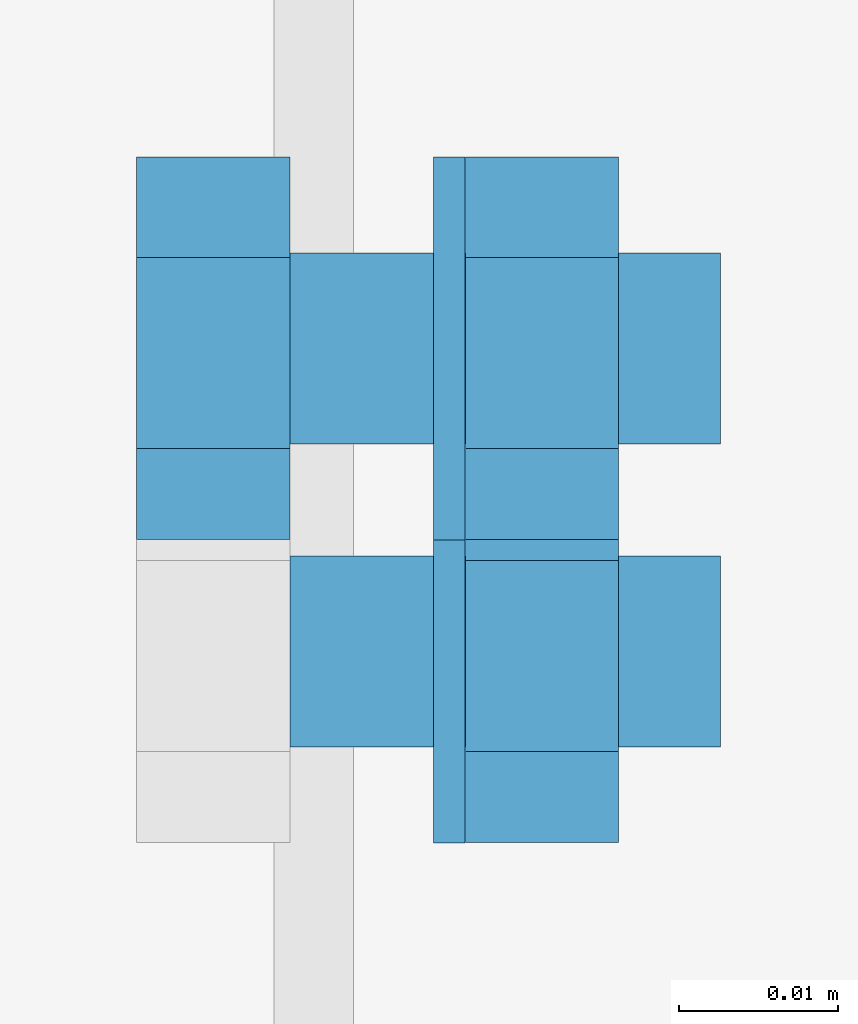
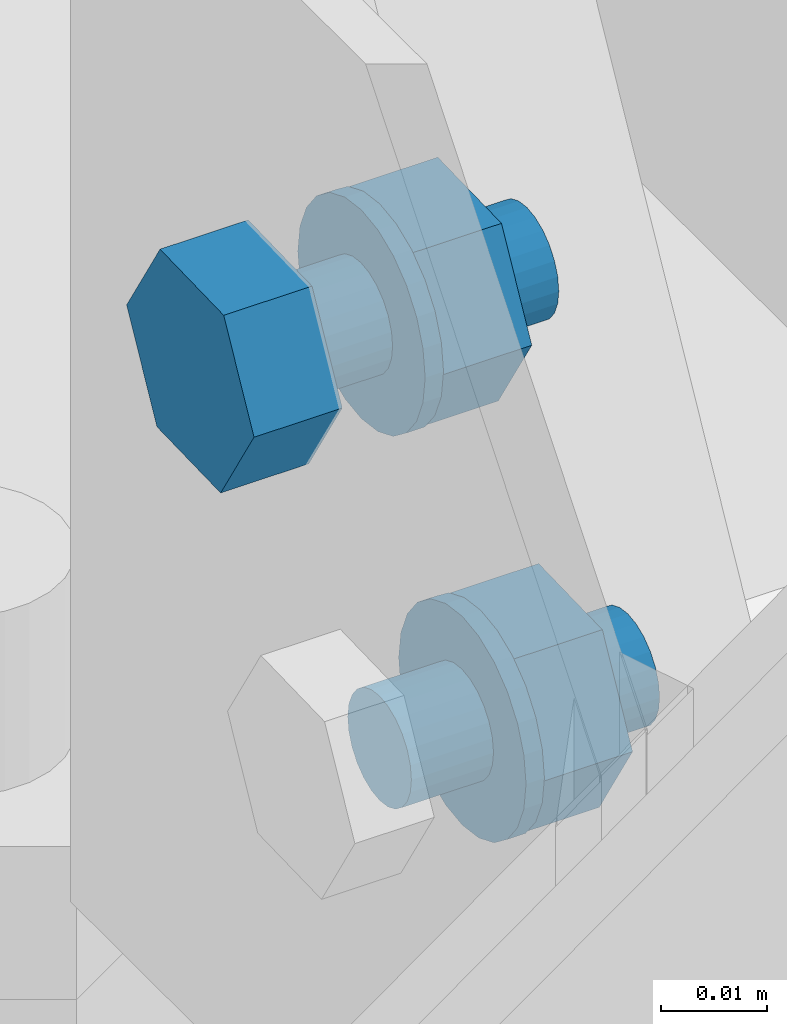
# One storey, part 26 of 29: 7 mechanical fasteners.
"""IFC4 building model written with IfcOpenShell, lengths in metres."""

from ifc_helpers import new_model, si_unit, frame, origin_with_axes, place, context, project, spatial, polyline, outline, extrude, type_object, element, save


model = new_model("IFC4")

# Units and contexts
model_context = context("Model", 3, precision=1e-05, world=origin_with_axes())
ifc_project = project(units=[si_unit("LENGTHUNIT", "METRE"), si_unit("AREAUNIT", "SQUARE_METRE"), si_unit("VOLUMEUNIT", "CUBIC_METRE"), si_unit("MASSUNIT", "GRAM", prefix="KILO"), si_unit("TIMEUNIT", "SECOND"), si_unit("PLANEANGLEUNIT", "RADIAN"), si_unit("SOLIDANGLEUNIT", "STERADIAN"), si_unit("THERMODYNAMICTEMPERATUREUNIT", "DEGREE_CELSIUS")], contexts=[model_context])

# Site, building, storey
placement_1 = place(None, origin_with_axes())
site = spatial("IfcSite", under=ifc_project, at=placement_1, Name="Italia", CompositionType="ELEMENT")
building = spatial("IfcBuilding", under=site, at=placement_1, Name="Capannone", CompositionType="ELEMENT")
storey = spatial("IfcBuildingStorey", under=building, at=placement_1, Name="Storey 0", CompositionType="ELEMENT", Elevation=0.0)

# Mechanical fasteners
mechanical_fastener_type_1 = type_object("IfcMechanicalFastenerType", Name="Collegamento 0010_0112", PredefinedType="BOLT")
placement_2 = place(placement_1, origin_with_axes())
mechanical_fastener_1_placement = place(placement_2, origin_with_axes())
element("IfcMechanicalFastener", 1, at=mechanical_fastener_1_placement, inside=storey, type_object=mechanical_fastener_type_1, Name="Collegamento 0010_0112", NominalDiameter=0.012, context=model_context, shape_type="SweptSolid", body=[
    extrude(outline(polyline([(0.0, 0.0), (-0.000204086, -0.00155292), (-0.000802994, -0.003), (-0.00175667, -0.00424264), (-0.00299931, -0.00519615), (-0.00444698, -0.00579555), (-0.00599957, -0.006), (-0.00755215, -0.00579555), (-0.00899982, -0.00519615), (-0.0102425, -0.00424264), (-0.0111961, -0.003), (-0.011795, -0.00155292), (-0.0119991, 0.0), (-0.011795, 0.00155291), (-0.0111961, 0.00300001), (-0.0102425, 0.00424264), (-0.00899982, 0.00519615), (-0.00755215, 0.00579555), (-0.00599957, 0.006), (-0.00444698, 0.00579555), (-0.00299931, 0.00519615), (-0.00175667, 0.00424264), (-0.000802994, 0.00300001), (-0.000204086, 0.00155291), (0.0, 0.0)])), frame((14.019, 12.041, 0.126354), z_axis=(-1.0, 0.0, 0.0), x_axis=(0.0, -1.0, 0.0)), (0.0, 0.0, 1.0), 0.0269995),
])
mechanical_fastener_type_2 = type_object("IfcMechanicalFastenerType", Name="Collegamento 0010_0112", PredefinedType="BOLT")
mechanical_fastener_2_placement = place(placement_2, origin_with_axes())
element("IfcMechanicalFastener", 2, at=mechanical_fastener_2_placement, inside=storey, type_object=mechanical_fastener_type_2, Name="Collegamento 0010_0112", NominalDiameter=0.0119997, context=model_context, shape_type="SweptSolid", body=[
    extrude(outline(polyline([(0.0, 0.0), (0.00570583, -0.0105565), (0.0177011, -0.010893), (0.0239906, -0.000673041), (0.0182838, 0.00988343), (0.00628853, 0.01022), (0.0, 0.0)])), frame((14.0126, 12.059, 0.126691), z_axis=(-1.0, 0.0, 0.0), x_axis=(0.0, -1.0, 0.0)), (0.0, 0.0, 1.0), 0.00959969),
])
mechanical_fastener_type_3 = type_object("IfcMechanicalFastenerType", Name="Collegamento 0010_0112", PredefinedType="BOLT")
mechanical_fastener_3_placement = place(placement_2, origin_with_axes())
element("IfcMechanicalFastener", 3, at=mechanical_fastener_3_placement, inside=storey, type_object=mechanical_fastener_type_3, Name="Collegamento 0010_0112", NominalDiameter=0.024, context=model_context, shape_type="SweptSolid", body=[
    extrude(outline(polyline([(0.0, 0.0), (-0.000409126, -0.00310583), (-0.00160789, -0.006), (-0.00351524, -0.00848528), (-0.00600052, -0.0103923), (-0.00889397, -0.0115911), (-0.0120001, -0.012), (-0.0151062, -0.0115911), (-0.0179996, -0.0103923), (-0.0204849, -0.00848528), (-0.0223923, -0.006), (-0.023591, -0.00310583), (-0.0240002, 0.0), (-0.023591, 0.00310583), (-0.0223923, 0.006), (-0.0204849, 0.00848529), (-0.0179996, 0.0103923), (-0.0151062, 0.0115911), (-0.0120001, 0.012), (-0.00889397, 0.0115911), (-0.00600052, 0.0103923), (-0.00351524, 0.00848527), (-0.00160789, 0.006), (-0.000409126, 0.00310582), (0.0, 0.0)])), frame((14.003, 12.035, 0.126354), z_axis=(-1.0, 0.0, 0.0), x_axis=(0.0, -1.0, 0.0)), (0.0, 0.0, 1.0), 0.00199986),
])
mechanical_fastener_type_4 = type_object("IfcMechanicalFastenerType", Name="Collegamento 0010_0112", PredefinedType="BOLT")
mechanical_fastener_4_placement = place(placement_2, origin_with_axes())
element("IfcMechanicalFastener", 4, at=mechanical_fastener_4_placement, inside=storey, type_object=mechanical_fastener_type_4, Name="Collegamento 0010_0112", NominalDiameter=0.0119998, context=model_context, shape_type="SweptSolid", body=[
    extrude(outline(polyline([(0.0, 0.0), (0.00570583, -0.0105565), (0.0177011, -0.010893), (0.0239906, -0.000673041), (0.0182848, 0.00988343), (0.00628948, 0.0102199), (0.0, 0.0)])), frame((13.992, 12.078, 0.161879), z_axis=(-1.0, 0.0, 0.0), x_axis=(0.0, -1.0, 0.0)), (0.0, 0.0, 1.0), 0.00960064),
])
mechanical_fastener_type_5 = type_object("IfcMechanicalFastenerType", Name="Collegamento 0010_0112", PredefinedType="BOLT")
mechanical_fastener_5_placement = place(placement_2, origin_with_axes())
element("IfcMechanicalFastener", 5, at=mechanical_fastener_5_placement, inside=storey, type_object=mechanical_fastener_type_5, Name="Collegamento 0010_0112", NominalDiameter=0.012, context=model_context, shape_type="SweptSolid", body=[
    extrude(outline(polyline([(0.0, 0.0), (-0.000204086, -0.00155291), (-0.000802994, -0.00300001), (-0.00175667, -0.00424264), (-0.00299931, -0.00519615), (-0.00444698, -0.00579555), (-0.00599957, -0.006), (-0.00755215, -0.00579555), (-0.00899982, -0.00519615), (-0.0102425, -0.00424264), (-0.0111961, -0.00300001), (-0.011795, -0.00155291), (-0.0119991, 0.0), (-0.011795, 0.00155291), (-0.0111961, 0.00300001), (-0.0102425, 0.00424264), (-0.00899982, 0.00519615), (-0.00755215, 0.00579555), (-0.00599957, 0.006), (-0.00444698, 0.00579555), (-0.00299931, 0.00519615), (-0.00175667, 0.00424264), (-0.000802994, 0.00299999), (-0.000204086, 0.00155291), (0.0, 0.0)])), frame((14.019, 12.06, 0.161543), z_axis=(-1.0, 0.0, 0.0), x_axis=(0.0, -1.0, 0.0)), (0.0, 0.0, 1.0), 0.0269995),
])
mechanical_fastener_type_6 = type_object("IfcMechanicalFastenerType", Name="Collegamento 0010_0112", PredefinedType="BOLT")
mechanical_fastener_6_placement = place(placement_2, origin_with_axes())
element("IfcMechanicalFastener", 6, at=mechanical_fastener_6_placement, inside=storey, type_object=mechanical_fastener_type_6, Name="Collegamento 0010_0112", NominalDiameter=0.0119998, context=model_context, shape_type="SweptSolid", body=[
    extrude(outline(polyline([(0.0, 0.0), (0.00570583, -0.0105565), (0.0177011, -0.010893), (0.0239906, -0.000673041), (0.0182848, 0.00988343), (0.00628948, 0.0102199), (0.0, 0.0)])), frame((14.0126, 12.078, 0.161879), z_axis=(-1.0, 0.0, 0.0), x_axis=(0.0, -1.0, 0.0)), (0.0, 0.0, 1.0), 0.00959969),
])
mechanical_fastener_type_7 = type_object("IfcMechanicalFastenerType", Name="Collegamento 0010_0112", PredefinedType="BOLT")
mechanical_fastener_7_placement = place(placement_2, origin_with_axes())
element("IfcMechanicalFastener", 7, at=mechanical_fastener_7_placement, inside=storey, type_object=mechanical_fastener_type_7, Name="Collegamento 0010_0112", NominalDiameter=0.024, context=model_context, shape_type="SweptSolid", body=[
    extrude(outline(polyline([(0.0, 0.0), (-0.000409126, -0.00310583), (-0.00160789, -0.006), (-0.00351524, -0.00848529), (-0.00600052, -0.0103923), (-0.00889397, -0.0115911), (-0.0120001, -0.012), (-0.0151062, -0.0115911), (-0.0179996, -0.0103923), (-0.0204849, -0.00848529), (-0.0223923, -0.006), (-0.023591, -0.00310583), (-0.0240002, 0.0), (-0.023591, 0.00310583), (-0.0223923, 0.006), (-0.0204849, 0.00848529), (-0.0179996, 0.0103923), (-0.0151062, 0.0115911), (-0.0120001, 0.012), (-0.00889397, 0.0115911), (-0.00600052, 0.0103923), (-0.00351524, 0.00848527), (-0.00160789, 0.006), (-0.000409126, 0.00310582), (0.0, 0.0)])), frame((14.003, 12.054, 0.161543), z_axis=(-1.0, 0.0, 0.0), x_axis=(0.0, -1.0, 0.0)), (0.0, 0.0, 1.0), 0.00199986),
])

save(model, "model.ifc")
